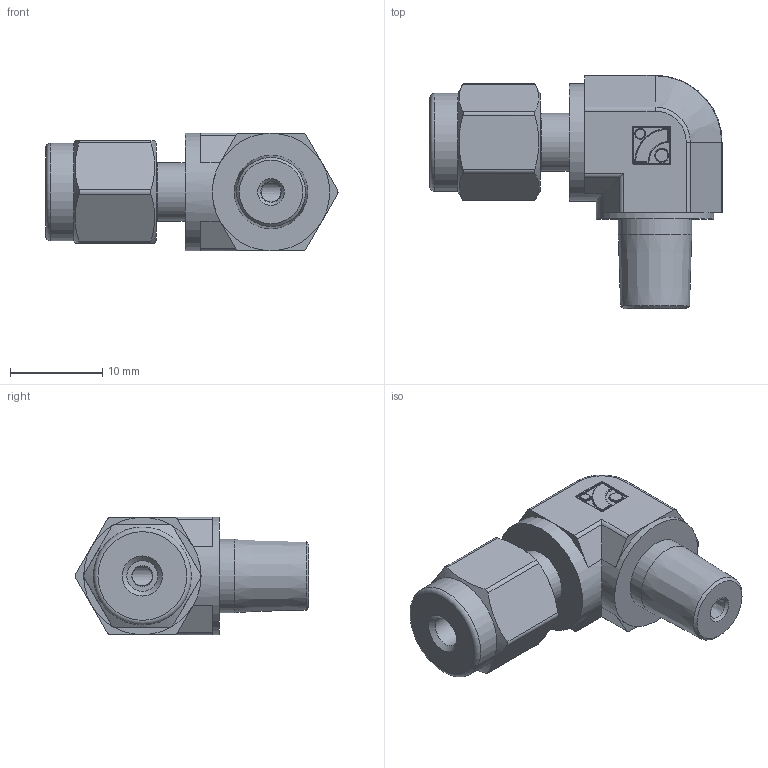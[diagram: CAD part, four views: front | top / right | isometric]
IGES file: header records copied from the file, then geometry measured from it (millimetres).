
Global section: file name: No Iges File Name specified; native system: Autodesk Inventor 2012; preprocessor: AutoDesk Inventor Iges Exporter R2012; author: 硅己绕,,1; organization: 1; date: 20150702.173745; units: millimetre
Bounding box: 31.61 x 25.25 x 12.7 mm (x, y, z)
Volume: 3861.5 mm3; surface area: 2190.5 mm2
Topology: 1 solids, 1 shells, 127 faces, 284 edges, 164 vertices
Faces by surface type: plane 42, cylinder 34, revolution 28, torus 12, cone 7, sphere 4
Full cylindrical faces by diameter (mm): 1.08 x1, 1.44 x1, 6.28 x1, 7.94 x1, 10.6 x1, 12.7 x2
